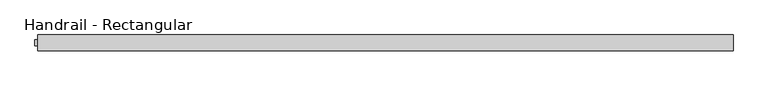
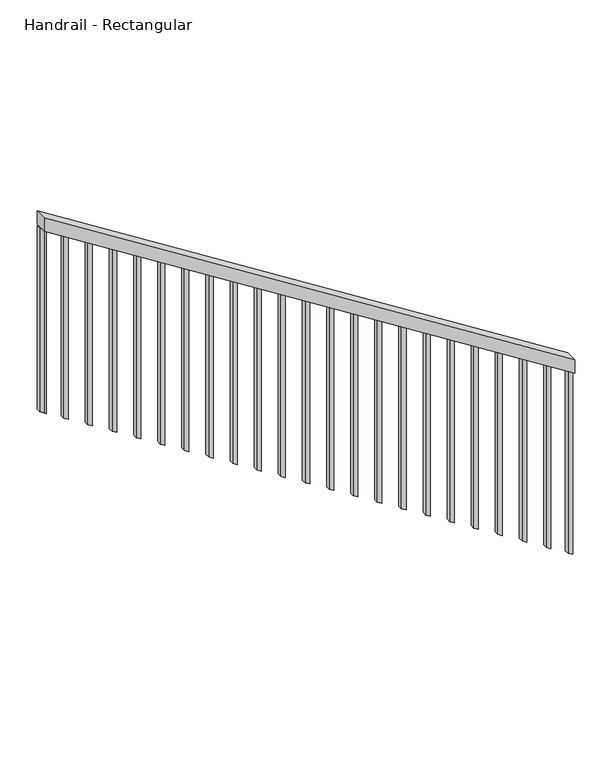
"""IFC4 building model written with IfcOpenShell, lengths in millimetres: railing geometry, Handrail - Rectangular."""

from ifc_helpers import new_model, si_unit, frame, origin, place, context, project, spatial, polyline, outline, extrude, source, transform, mapped, element, save


def handrail_rectangular_48260811(model_context):
    return source(origin(), model_context, "Body", "SweptSolid", [
        extrude(outline(polyline([(854.2701167, 47456.8606829), (914.4, 47456.8606829), (2330.2451613, 45221.1423478), (2270.115278, 45221.1423478), (854.2701167, 47456.8606829)])), frame((0.0, 28163.9599629, 0.0), z_axis=(0.0, 1.0, 0.0), x_axis=(0.0, 0.0, 1.0)), (0.0, 0.0, 1.0), 50.8),
        extrude(outline(polyline([(2263.7353035, 45231.1856829), (2275.8021657, 45212.1356829), (1459.2798654, 45212.1356829), (1447.2130032, 45231.1856829), (2263.7353035, 45231.1856829)])), frame((0.0, 28179.8349629, 0.0), z_axis=(0.0, 1.0, 0.0), x_axis=(0.0, 0.0, 1.0)), (0.0, 0.0, 1.0), 19.05),
        extrude(outline(polyline([(2199.3936259, 45332.7856829), (2211.4604881, 45313.7356829), (1394.9381878, 45313.7356829), (1382.8713256, 45332.7856829), (2199.3936259, 45332.7856829)])), frame((0.0, 28179.8349629, 0.0), z_axis=(0.0, 1.0, 0.0), x_axis=(0.0, 0.0, 1.0)), (0.0, 0.0, 1.0), 19.05),
        extrude(outline(polyline([(2135.0519483, 45434.3856829), (2147.1188104, 45415.3356829), (1330.5965101, 45415.3356829), (1318.529648, 45434.3856829), (2135.0519483, 45434.3856829)])), frame((0.0, 28179.8349629, 0.0), z_axis=(0.0, 1.0, 0.0), x_axis=(0.0, 0.0, 1.0)), (0.0, 0.0, 1.0), 19.05),
        extrude(outline(polyline([(2070.7102706, 45535.9856829), (2082.7771328, 45516.9356829), (1266.2548325, 45516.9356829), (1254.1879703, 45535.9856829), (2070.7102706, 45535.9856829)])), frame((0.0, 28179.8349629, 0.0), z_axis=(0.0, 1.0, 0.0), x_axis=(0.0, 0.0, 1.0)), (0.0, 0.0, 1.0), 19.05),
        extrude(outline(polyline([(2006.368593, 45637.5856829), (2018.4354552, 45618.5356829), (1201.9131549, 45618.5356829), (1189.8462927, 45637.5856829), (2006.368593, 45637.5856829)])), frame((0.0, 28179.8349629, 0.0), z_axis=(0.0, 1.0, 0.0), x_axis=(0.0, 0.0, 1.0)), (0.0, 0.0, 1.0), 19.05),
        extrude(outline(polyline([(1942.0269154, 45739.1856829), (1954.0937775, 45720.1356829), (1137.5714772, 45720.1356829), (1125.5046151, 45739.1856829), (1942.0269154, 45739.1856829)])), frame((0.0, 28179.8349629, 0.0), z_axis=(0.0, 1.0, 0.0), x_axis=(0.0, 0.0, 1.0)), (0.0, 0.0, 1.0), 19.05),
        extrude(outline(polyline([(1877.6852377, 45840.7856829), (1889.7520999, 45821.7356829), (1073.2297996, 45821.7356829), (1061.1629374, 45840.7856829), (1877.6852377, 45840.7856829)])), frame((0.0, 28179.8349629, 0.0), z_axis=(0.0, 1.0, 0.0), x_axis=(0.0, 0.0, 1.0)), (0.0, 0.0, 1.0), 19.05),
        extrude(outline(polyline([(1813.3435601, 45942.3856829), (1825.4104223, 45923.3356829), (1008.888122, 45923.3356829), (996.8212598, 45942.3856829), (1813.3435601, 45942.3856829)])), frame((0.0, 28179.8349629, 0.0), z_axis=(0.0, 1.0, 0.0), x_axis=(0.0, 0.0, 1.0)), (0.0, 0.0, 1.0), 19.05),
        extrude(outline(polyline([(1749.0018825, 46043.9856829), (1761.0687446, 46024.9356829), (944.5464443, 46024.9356829), (932.4795822, 46043.9856829), (1749.0018825, 46043.9856829)])), frame((0.0, 28179.8349629, 0.0), z_axis=(0.0, 1.0, 0.0), x_axis=(0.0, 0.0, 1.0)), (0.0, 0.0, 1.0), 19.05),
        extrude(outline(polyline([(1684.6602048, 46145.5856829), (1696.727067, 46126.5356829), (880.2047667, 46126.5356829), (868.1379045, 46145.5856829), (1684.6602048, 46145.5856829)])), frame((0.0, 28179.8349629, 0.0), z_axis=(0.0, 1.0, 0.0), x_axis=(0.0, 0.0, 1.0)), (0.0, 0.0, 1.0), 19.05),
        extrude(outline(polyline([(1620.3185272, 46247.1856829), (1632.3853894, 46228.1356829), (815.8630891, 46228.1356829), (803.7962269, 46247.1856829), (1620.3185272, 46247.1856829)])), frame((0.0, 28179.8349629, 0.0), z_axis=(0.0, 1.0, 0.0), x_axis=(0.0, 0.0, 1.0)), (0.0, 0.0, 1.0), 19.05),
        extrude(outline(polyline([(1555.9768496, 46348.7856829), (1568.0437118, 46329.7356829), (751.5214115, 46329.7356829), (739.4545493, 46348.7856829), (1555.9768496, 46348.7856829)])), frame((0.0, 28179.8349629, 0.0), z_axis=(0.0, 1.0, 0.0), x_axis=(0.0, 0.0, 1.0)), (0.0, 0.0, 1.0), 19.05),
        extrude(outline(polyline([(1491.635172, 46450.3856829), (1503.7020341, 46431.3356829), (687.1797338, 46431.3356829), (675.1128717, 46450.3856829), (1491.635172, 46450.3856829)])), frame((0.0, 28179.8349629, 0.0), z_axis=(0.0, 1.0, 0.0), x_axis=(0.0, 0.0, 1.0)), (0.0, 0.0, 1.0), 19.05),
        extrude(outline(polyline([(1427.2934943, 46551.9856829), (1439.3603565, 46532.9356829), (622.8380562, 46532.9356829), (610.771194, 46551.9856829), (1427.2934943, 46551.9856829)])), frame((0.0, 28179.8349629, 0.0), z_axis=(0.0, 1.0, 0.0), x_axis=(0.0, 0.0, 1.0)), (0.0, 0.0, 1.0), 19.05),
        extrude(outline(polyline([(1362.9518167, 46653.5856829), (1375.0186789, 46634.5356829), (558.4963786, 46634.5356829), (546.4295164, 46653.5856829), (1362.9518167, 46653.5856829)])), frame((0.0, 28179.8349629, 0.0), z_axis=(0.0, 1.0, 0.0), x_axis=(0.0, 0.0, 1.0)), (0.0, 0.0, 1.0), 19.05),
        extrude(outline(polyline([(1298.6101391, 46755.1856829), (1310.6770012, 46736.1356829), (494.1547009, 46736.1356829), (482.0878388, 46755.1856829), (1298.6101391, 46755.1856829)])), frame((0.0, 28179.8349629, 0.0), z_axis=(0.0, 1.0, 0.0), x_axis=(0.0, 0.0, 1.0)), (0.0, 0.0, 1.0), 19.05),
        extrude(outline(polyline([(1234.2684614, 46856.7856829), (1246.3353236, 46837.7356829), (429.8130233, 46837.7356829), (417.7461611, 46856.7856829), (1234.2684614, 46856.7856829)])), frame((0.0, 28179.8349629, 0.0), z_axis=(0.0, 1.0, 0.0), x_axis=(0.0, 0.0, 1.0)), (0.0, 0.0, 1.0), 19.05),
        extrude(outline(polyline([(1169.9267838, 46958.3856829), (1181.993646, 46939.3356829), (365.4713457, 46939.3356829), (353.4044835, 46958.3856829), (1169.9267838, 46958.3856829)])), frame((0.0, 28179.8349629, 0.0), z_axis=(0.0, 1.0, 0.0), x_axis=(0.0, 0.0, 1.0)), (0.0, 0.0, 1.0), 19.05),
        extrude(outline(polyline([(1105.5851062, 47059.9856829), (1117.6519683, 47040.9356829), (301.129668, 47040.9356829), (289.0628059, 47059.9856829), (1105.5851062, 47059.9856829)])), frame((0.0, 28179.8349629, 0.0), z_axis=(0.0, 1.0, 0.0), x_axis=(0.0, 0.0, 1.0)), (0.0, 0.0, 1.0), 19.05),
        extrude(outline(polyline([(1041.2434285, 47161.5856829), (1053.3102907, 47142.5356829), (236.7879904, 47142.5356829), (224.7211282, 47161.5856829), (1041.2434285, 47161.5856829)])), frame((0.0, 28179.8349629, 0.0), z_axis=(0.0, 1.0, 0.0), x_axis=(0.0, 0.0, 1.0)), (0.0, 0.0, 1.0), 19.05),
        extrude(outline(polyline([(976.9017509, 47263.1856829), (988.9686131, 47244.1356829), (172.4463128, 47244.1356829), (160.3794506, 47263.1856829), (976.9017509, 47263.1856829)])), frame((0.0, 28179.8349629, 0.0), z_axis=(0.0, 1.0, 0.0), x_axis=(0.0, 0.0, 1.0)), (0.0, 0.0, 1.0), 19.05),
        extrude(outline(polyline([(912.5600733, 47364.7856829), (924.6269354, 47345.7356829), (108.1046351, 47345.7356829), (96.037773, 47364.7856829), (912.5600733, 47364.7856829)])), frame((0.0, 28179.8349629, 0.0), z_axis=(0.0, 1.0, 0.0), x_axis=(0.0, 0.0, 1.0)), (0.0, 0.0, 1.0), 19.05),
        extrude(outline(polyline([(2258.0315247, 45240.1923478), (2270.0983868, 45221.1423478), (1453.5760865, 45221.1423478), (1441.5092244, 45240.1923478), (2258.0315247, 45240.1923478)])), frame((0.0, 28179.8349629, 0.0), z_axis=(0.0, 1.0, 0.0), x_axis=(0.0, 0.0, 1.0)), (0.0, 0.0, 1.0), 19.05),
        extrude(outline(polyline([(854.2504279, 47456.8606829), (866.3172901, 47437.8106829), (49.7949898, 47437.8106829), (37.7281276, 47456.8606829), (854.2504279, 47456.8606829)])), frame((0.0, 28179.8349629, 0.0), z_axis=(0.0, 1.0, 0.0), x_axis=(0.0, 0.0, 1.0)), (0.0, 0.0, 1.0), 19.05),
    ])


if __name__ == "__main__":
    model = new_model("IFC4")
    model_context = context("Model", 3, world=origin())
    ifc_project = project(units=[si_unit("LENGTHUNIT", "METRE", prefix="MILLI")], contexts=[model_context])
    site = spatial("IfcSite", under=ifc_project)
    building = spatial("IfcBuilding", under=site)
    placement = place(None, origin())
    handrail_rectangular_shape = handrail_rectangular_48260811(model_context)
    element("IfcRailing", 1, ObjectType="Handrail - Rectangular", at=placement, inside=building, context=model_context, shape_type="MappedRepresentation", body=[
        mapped(handrail_rectangular_shape, transform((0.0, 0.0, 0.0), x_axis=(1.0, 0.0, 0.0), y_axis=(0.0, 1.0, 0.0), z_axis=(0.0, 0.0, 1.0))),
    ])
    save(model, "model.ifc")
